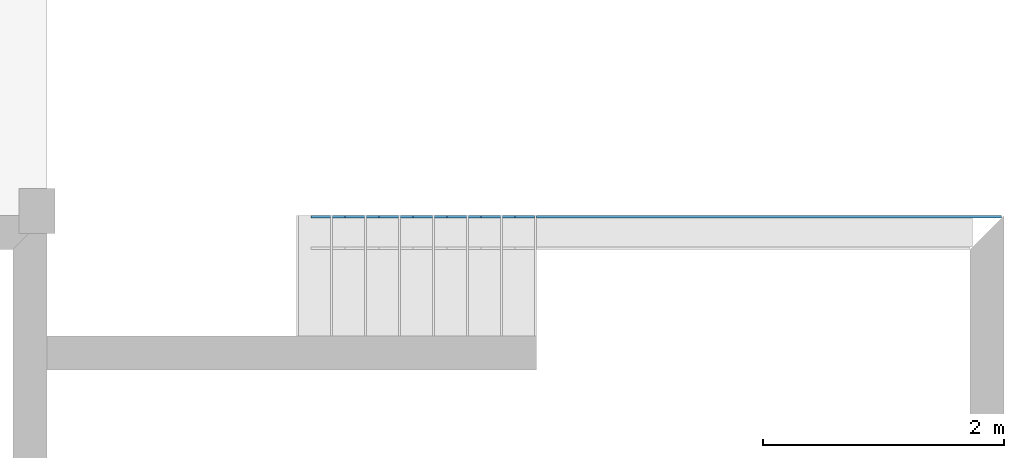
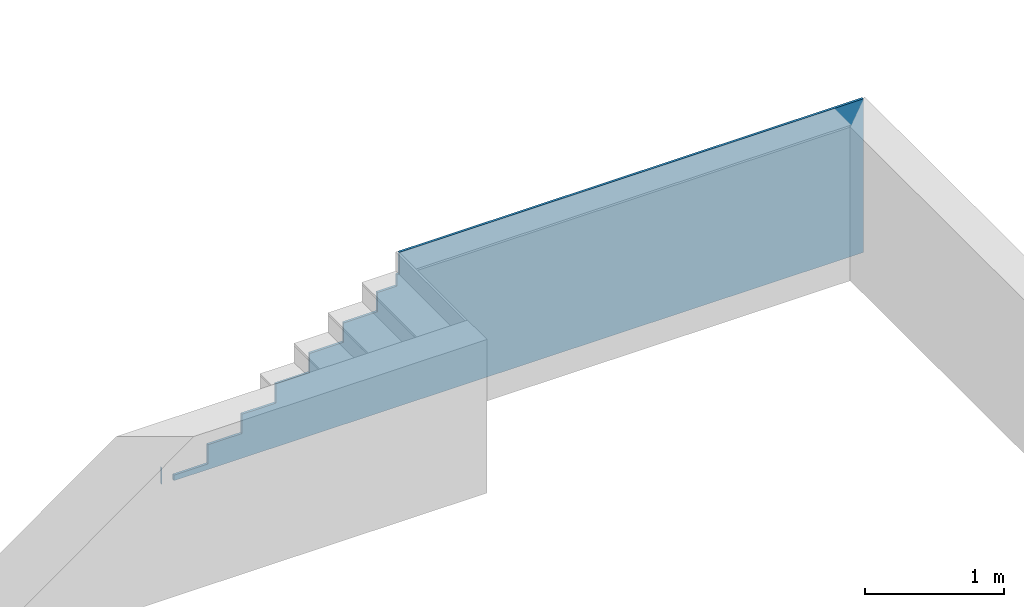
# One storey, part 12 of 16: 1 building element part, 1 element without a shape of its own.
"""IFC2X3 building model written with IfcOpenShell, lengths in millimetres."""

from ifc_helpers import new_model, entity, si_unit, converted_unit, derived_unit, money_unit, direction, frame, origin_with_axes, place, context, subcontext, project, spatial, polyline, outline, extrude, boolean, faceted_brep, material, type_object, element, aggregate, save


model = new_model("IFC2X3")

# Units and contexts
model_context = context("Model", 3, precision=0.01, world=origin_with_axes(), true_north=direction((0.293984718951, 0.955810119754)))
body_context = subcontext(model_context, "Body", "Model", "MODEL_VIEW")
ifc_project = project(units=[si_unit("LENGTHUNIT", "METRE", prefix="MILLI"), si_unit("AREAUNIT", "SQUARE_METRE"), si_unit("VOLUMEUNIT", "CUBIC_METRE"), converted_unit("PLANEANGLEUNIT", "DEGREE", entity("IfcPlaneAngleMeasure", 0.0174532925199), si_unit("PLANEANGLEUNIT", "RADIAN"), dimensions=[0, 0, 0, 0, 0, 0, 0]), si_unit("SOLIDANGLEUNIT", "STERADIAN"), money_unit("USD"), converted_unit("TIMEUNIT", "Year", entity("IfcTimeMeasure", 31556926.0), si_unit("TIMEUNIT", "SECOND"), dimensions=[0, 0, 1, 0, 0, 0, 0]), si_unit("MASSUNIT", "GRAM", prefix="KILO"), si_unit("THERMODYNAMICTEMPERATUREUNIT", "DEGREE_CELSIUS"), si_unit("LUMINOUSINTENSITYUNIT", "LUMEN"), si_unit("ENERGYUNIT", "JOULE", prefix="MEGA"), derived_unit("THERMALCONDUCTANCEUNIT", [(si_unit("POWERUNIT", "WATT"), 1), (si_unit("LENGTHUNIT", "METRE"), -1), (si_unit("THERMODYNAMICTEMPERATUREUNIT", "KELVIN"), -1)]), derived_unit("SPECIFICHEATCAPACITYUNIT", [(si_unit("ENERGYUNIT", "JOULE"), 1), (si_unit("MASSUNIT", "GRAM", prefix="KILO"), -1), (si_unit("THERMODYNAMICTEMPERATUREUNIT", "KELVIN"), -1)]), derived_unit("MASSDENSITYUNIT", [(si_unit("MASSUNIT", "GRAM", prefix="KILO"), 1), (si_unit("VOLUMEUNIT", "CUBIC_METRE"), -1)])], contexts=[model_context])

# Site, building, storey
site_placement = place(None, origin_with_axes())
site = spatial("IfcSite", under=ifc_project, at=site_placement, Name="Local", CompositionType="ELEMENT")
building_placement = place(site_placement, origin_with_axes())
building = spatial("IfcBuilding", under=site, at=building_placement, Name="Construção", CompositionType="ELEMENT")
storey_placement = place(building_placement, origin_with_axes())
storey = spatial("IfcBuildingStorey", under=building, at=storey_placement, Name="Pavimento Térreo", CompositionType="ELEMENT", Elevation=0.0)

# Wall, building element part
wall_type = type_object("IfcWallType", Name="Alvenaria Tijolo Maciço com Revestimento 28cm 280", PredefinedType="NOTDEFINED")
wall_placement = place(storey_placement, frame((28519.6450727, 7250.63219788, 0.0), z_axis=(0.0, 0.0, 1.0), x_axis=(-1.0, 0.0, 0.0)))
wall = element("IfcWall", 1, at=wall_placement, inside=storey, type_object=wall_type, Name="Parede")
ifc_material = material(Name="Reboco")
building_element_part_placement = place(wall_placement, origin_with_axes())
building_element_part = element("IfcBuildingElementPart", 2, at=building_element_part_placement, material=ifc_material, Name="Reboco", context=body_context, shape_type="CSG", body=[
    boolean("DIFFERENCE", boolean("DIFFERENCE", boolean("DIFFERENCE", boolean("DIFFERENCE", boolean("DIFFERENCE", boolean("DIFFERENCE", extrude(outline(polyline([(0.0, 0.0), (5870.0, 0.0), (5870.0, 20.0), (0.0, 20.0), (0.0, 0.0)])), origin_with_axes(), (0.0, 0.0, 1.0), 1350.0), faceted_brep([(3875.85951723, 280.0, 1350.0), (3875.85951737, 260.0, 1350.0), (5870.0, 260.0, 1350.0), (5870.0, 280.0, 1350.0), (3875.85951737, 260.0, 1161.25), (3875.85951723, 280.0, 1161.25), (5749.9, 260.0, 48.75), (5749.9, 260.0, 0.0), (5849.9, 260.0, 0.0), (5849.9, 260.0, 148.75), (5850.0, 260.0, 148.75), (5850.0, 260.0, 0.0), (5870.0, 260.0, 0.0), (3895.85951701, 260.0, 1161.25), (3895.85951701, 260.0, 1061.25), (4057.77958205, 260.0, 1061.25), (4057.77958205, 260.0, 892.5), (4339.79965171, 260.0, 892.5), (4339.79965171, 260.0, 723.75), (4621.81972137, 260.0, 723.75), (4621.81972137, 260.0, 555.0), (4903.83979103, 260.0, 555.0), (4903.83979103, 260.0, 386.25), (5185.85986068, 260.0, 386.25), (5185.85986068, 260.0, 217.5), (5467.87993034, 260.0, 217.5), (5467.87993034, 260.0, 48.75), (5870.0, 280.0, 0.0), (5850.0, 280.0, 0.0), (5850.0, 280.0, 148.75), (5849.9, 280.0, 148.75), (5849.9, 280.0, 0.0), (5749.9, 280.0, 0.0), (5749.9, 280.0, 48.75), (5467.87993034, 280.0, 48.75), (5467.87993034, 280.0, 217.5), (5185.85986068, 280.0, 217.5), (5185.85986068, 280.0, 386.25), (4903.83979103, 280.0, 386.25), (4903.83979103, 280.0, 555.0), (4621.81972137, 280.0, 555.0), (4621.81972137, 280.0, 723.75), (4339.79965171, 280.0, 723.75), (4339.79965171, 280.0, 892.5), (4057.77958205, 280.0, 892.5), (4057.77958205, 280.0, 1061.25), (3895.85951689, 280.0, 1061.25), (3895.85951689, 280.0, 1161.25)], [[[0, 1, 2, 3]], [[4, 1, 0, 5]], [[6, 7, 8, 9, 10, 11, 12, 2, 1, 4, 13, 14, 15, 16, 17, 18, 19, 20, 21, 22, 23, 24, 25, 26]], [[2, 12, 27, 3]], [[5, 0, 3, 27, 28, 29, 30, 31, 32, 33, 34, 35, 36, 37, 38, 39, 40, 41, 42, 43, 44, 45, 46, 47]], [[13, 4, 5, 47]], [[7, 6, 33, 32]], [[7, 32, 31, 8]], [[9, 8, 31, 30]], [[10, 9, 30, 29]], [[11, 10, 29, 28]], [[11, 28, 27, 12]], [[14, 13, 47, 46]], [[15, 14, 46, 45]], [[16, 15, 45, 44]], [[17, 16, 44, 43]], [[18, 17, 43, 42]], [[19, 18, 42, 41]], [[20, 19, 41, 40]], [[21, 20, 40, 39]], [[22, 21, 39, 38]], [[23, 22, 38, 37]], [[24, 23, 37, 36]], [[25, 24, 36, 35]], [[26, 25, 35, 34]], [[6, 26, 34, 33]]])), faceted_brep([(280.0, 260.0, 0.0), (280.0, 260.0, 1350.0), (0.0, 260.0, 1350.0), (0.0, 260.0, 0.0), (280.0, 280.0, 1350.0), (280.0, 280.0, 0.0), (0.0, 280.0, 1350.0), (0.0, 280.0, 0.0)], [[[0, 1, 2, 3]], [[4, 1, 0, 5]], [[1, 4, 6, 2]], [[6, 7, 3, 2]], [[5, 0, 3, 7]], [[4, 5, 7, 6]]])), faceted_brep([(3875.85951737, 260.0, 1350.0), (3875.85951898, 20.0, 1350.0), (5870.0, 20.0, 1350.0), (5870.0, 260.0, 1350.0), (3875.85951898, 20.0, 1161.25), (3875.85951737, 260.0, 1161.25), (5749.9, 20.0, 48.75), (5749.9, 20.0, 0.0), (5849.9, 20.0, 0.0), (5849.9, 20.0, 148.75), (5850.0, 20.0, 148.75), (5850.0, 20.0, 0.0), (5870.0, 20.0, 0.0), (3895.85951851, 20.0, 1161.25), (3895.85951851, 20.0, 1061.25), (4057.77958205, 20.0, 1061.25), (4057.77958205, 20.0, 892.5), (4339.79965171, 20.0, 892.5), (4339.79965171, 20.0, 723.75), (4621.81972137, 20.0, 723.75), (4621.81972137, 20.0, 555.0), (4903.83979103, 20.0, 555.0), (4903.83979103, 20.0, 386.25), (5185.85986068, 20.0, 386.25), (5185.85986068, 20.0, 217.5), (5467.87993034, 20.0, 217.5), (5467.87993034, 20.0, 48.75), (5870.0, 260.0, 0.0), (5850.0, 260.0, 0.0), (5850.0, 260.0, 148.75), (5849.9, 260.0, 148.75), (5849.9, 260.0, 0.0), (5749.9, 260.0, 0.0), (5749.9, 260.0, 48.75), (5467.87993034, 260.0, 48.75), (5467.87993034, 260.0, 217.5), (5185.85986068, 260.0, 217.5), (5185.85986068, 260.0, 386.25), (4903.83979103, 260.0, 386.25), (4903.83979103, 260.0, 555.0), (4621.81972137, 260.0, 555.0), (4621.81972137, 260.0, 723.75), (4339.79965171, 260.0, 723.75), (4339.79965171, 260.0, 892.5), (4057.77958205, 260.0, 892.5), (4057.77958205, 260.0, 1061.25), (3895.85951701, 260.0, 1061.25), (3895.85951701, 260.0, 1161.25)], [[[0, 1, 2, 3]], [[4, 1, 0, 5]], [[6, 7, 8, 9, 10, 11, 12, 2, 1, 4, 13, 14, 15, 16, 17, 18, 19, 20, 21, 22, 23, 24, 25, 26]], [[2, 12, 27, 3]], [[5, 0, 3, 27, 28, 29, 30, 31, 32, 33, 34, 35, 36, 37, 38, 39, 40, 41, 42, 43, 44, 45, 46, 47]], [[13, 4, 5, 47]], [[7, 6, 33, 32]], [[7, 32, 31, 8]], [[9, 8, 31, 30]], [[10, 9, 30, 29]], [[11, 10, 29, 28]], [[11, 28, 27, 12]], [[14, 13, 47, 46]], [[15, 14, 46, 45]], [[16, 15, 45, 44]], [[17, 16, 44, 43]], [[18, 17, 43, 42]], [[19, 18, 42, 41]], [[20, 19, 41, 40]], [[21, 20, 40, 39]], [[22, 21, 39, 38]], [[23, 22, 38, 37]], [[24, 23, 37, 36]], [[25, 24, 36, 35]], [[26, 25, 35, 34]], [[6, 26, 34, 33]]])), faceted_brep([(260.0, 20.0, 0.0), (260.0, 20.0, 1350.0), (0.0, 20.0, 1350.0), (0.0, 20.0, 0.0), (260.0, 260.0, 1350.0), (260.0, 260.0, 0.0), (0.0, 260.0, 1350.0), (0.0, 260.0, 0.0)], [[[0, 1, 2, 3]], [[4, 1, 0, 5]], [[1, 4, 6, 2]], [[6, 7, 3, 2]], [[5, 0, 3, 7]], [[4, 5, 7, 6]]])), faceted_brep([(3875.85951898, 20.0, 1350.0), (3875.85951911, 0.0, 1350.0), (5870.0, 0.0, 1350.0), (5870.0, 20.0, 1350.0), (3875.85951911, 0.0, 1161.25), (3875.85951898, 20.0, 1161.25), (5749.9, 0.0, 48.75), (5749.9, 0.0, 0.0), (5849.9, 0.0, 0.0), (5849.9, 0.0, 148.75), (5850.0, 0.0, 148.75), (5850.0, 0.0, 0.0), (5870.0, 0.0, 0.0), (3895.85951863, 0.0, 1161.25), (3895.85951863, 0.0, 1061.25), (4057.77958205, 0.0, 1061.25), (4057.77958205, 0.0, 892.5), (4339.79965171, 0.0, 892.5), (4339.79965171, 0.0, 723.75), (4621.81972137, 0.0, 723.75), (4621.81972137, 0.0, 555.0), (4903.83979103, 0.0, 555.0), (4903.83979103, 0.0, 386.25), (5185.85986068, 0.0, 386.25), (5185.85986068, 0.0, 217.5), (5467.87993034, 0.0, 217.5), (5467.87993034, 0.0, 48.75), (5870.0, 20.0, 0.0), (5850.0, 20.0, 0.0), (5850.0, 20.0, 148.75), (5849.9, 20.0, 148.75), (5849.9, 20.0, 0.0), (5749.9, 20.0, 0.0), (5749.9, 20.0, 48.75), (5467.87993034, 20.0, 48.75), (5467.87993034, 20.0, 217.5), (5185.85986068, 20.0, 217.5), (5185.85986068, 20.0, 386.25), (4903.83979103, 20.0, 386.25), (4903.83979103, 20.0, 555.0), (4621.81972137, 20.0, 555.0), (4621.81972137, 20.0, 723.75), (4339.79965171, 20.0, 723.75), (4339.79965171, 20.0, 892.5), (4057.77958205, 20.0, 892.5), (4057.77958205, 20.0, 1061.25), (3895.85951851, 20.0, 1061.25), (3895.85951851, 20.0, 1161.25)], [[[0, 1, 2, 3]], [[4, 1, 0, 5]], [[6, 7, 8, 9, 10, 11, 12, 2, 1, 4, 13, 14, 15, 16, 17, 18, 19, 20, 21, 22, 23, 24, 25, 26]], [[2, 12, 27, 3]], [[5, 0, 3, 27, 28, 29, 30, 31, 32, 33, 34, 35, 36, 37, 38, 39, 40, 41, 42, 43, 44, 45, 46, 47]], [[13, 4, 5, 47]], [[7, 6, 33, 32]], [[7, 32, 31, 8]], [[9, 8, 31, 30]], [[10, 9, 30, 29]], [[11, 10, 29, 28]], [[11, 28, 27, 12]], [[14, 13, 47, 46]], [[15, 14, 46, 45]], [[16, 15, 45, 44]], [[17, 16, 44, 43]], [[18, 17, 43, 42]], [[19, 18, 42, 41]], [[20, 19, 41, 40]], [[21, 20, 40, 39]], [[22, 21, 39, 38]], [[23, 22, 38, 37]], [[24, 23, 37, 36]], [[25, 24, 36, 35]], [[26, 25, 35, 34]], [[6, 26, 34, 33]]])), faceted_brep([(20.0, 0.0, 0.0), (20.0, 0.0, 1350.0), (0.0, 0.0, 1350.0), (0.0, 0.0, 0.0), (20.0, 20.0, 1350.0), (20.0, 20.0, 0.0), (0.0, 20.0, 1350.0), (0.0, 20.0, 0.0)], [[[0, 1, 2, 3]], [[4, 1, 0, 5]], [[1, 4, 6, 2]], [[6, 7, 3, 2]], [[5, 0, 3, 7]], [[4, 5, 7, 6]]])),
])
aggregate(wall, [building_element_part])

save(model, "model.ifc")
